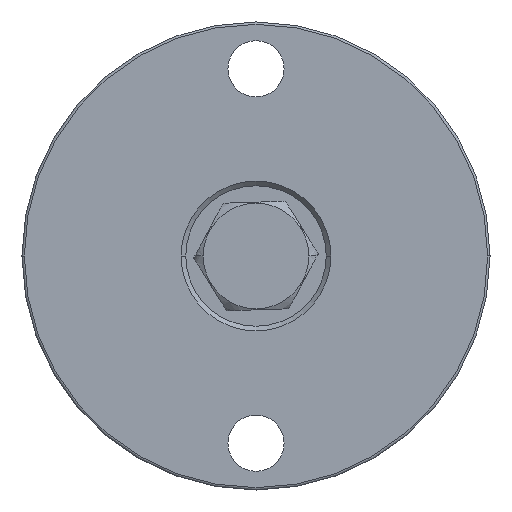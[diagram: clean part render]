
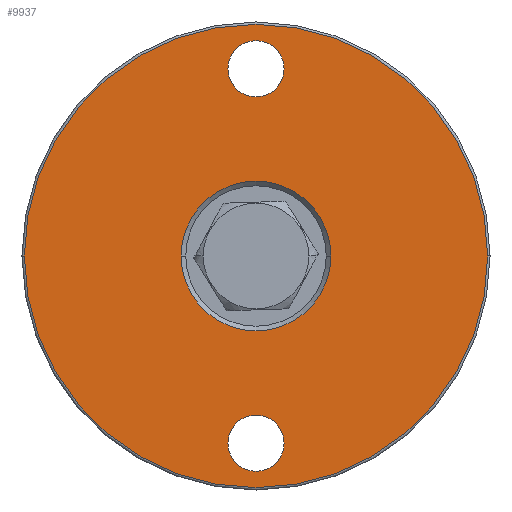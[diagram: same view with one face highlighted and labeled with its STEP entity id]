
A CAD part, front view. The second image highlights one B-rep face of the part: STEP entity #9937.
In plain terms, the highlighted planar face has unit normal (0, -1, 0).
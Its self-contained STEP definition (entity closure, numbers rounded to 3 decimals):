
#144 = VERTEX_POINT ( 'NONE', #4490 ) ;
#207 = DIRECTION ( 'NONE',  ( -1., 0., 0. ) ) ;
#458 = AXIS2_PLACEMENT_3D ( 'NONE', #9995, #8738, #7776 ) ;
#1023 = DIRECTION ( 'NONE',  ( 0., 1., 0. ) ) ;
#1078 = EDGE_CURVE ( 'NONE', #9899, #11290, #6294, .T. ) ;
#1084 = CARTESIAN_POINT ( 'NONE',  ( 0., -30., -40. ) ) ;
#1658 = DIRECTION ( 'NONE',  ( -1., 0., 0. ) ) ;
#2112 = ORIENTED_EDGE ( 'NONE', *, *, #5756, .T. ) ;
#2282 = ORIENTED_EDGE ( 'NONE', *, *, #11859, .T. ) ;
#2294 = CARTESIAN_POINT ( 'NONE',  ( 49.5, -30., 0. ) ) ;
#2314 = CARTESIAN_POINT ( 'NONE',  ( 0., -30., 0. ) ) ;
#2989 = VERTEX_POINT ( 'NONE', #11101 ) ;
#3020 = DIRECTION ( 'NONE',  ( 1., 0., 0. ) ) ;
#3509 = CARTESIAN_POINT ( 'NONE',  ( 16., -30., 0. ) ) ;
#3917 = CARTESIAN_POINT ( 'NONE',  ( 0., -30., 40. ) ) ;
#3977 = CIRCLE ( 'NONE', #5772, 6. ) ;
#4133 = DIRECTION ( 'NONE',  ( -1., 0., 0. ) ) ;
#4168 = DIRECTION ( 'NONE',  ( -1., 0., 0. ) ) ;
#4277 = CARTESIAN_POINT ( 'NONE',  ( 0., -30., -40. ) ) ;
#4320 = FACE_OUTER_BOUND ( 'NONE', #5253, .T. ) ;
#4472 = EDGE_LOOP ( 'NONE', ( #2112, #2282 ) ) ;
#4490 = CARTESIAN_POINT ( 'NONE',  ( 6., -30., -40. ) ) ;
#4811 = CIRCLE ( 'NONE', #5415, 6. ) ;
#5191 = DIRECTION ( 'NONE',  ( -1., 0., 0. ) ) ;
#5253 = EDGE_LOOP ( 'NONE', ( #5934, #10452 ) ) ;
#5415 = AXIS2_PLACEMENT_3D ( 'NONE', #3917, #5560, #5191 ) ;
#5560 = DIRECTION ( 'NONE',  ( 0., 1., 0. ) ) ;
#5585 = CARTESIAN_POINT ( 'NONE',  ( -16., -30., 0. ) ) ;
#5756 = EDGE_CURVE ( 'NONE', #2989, #144, #3977, .T. ) ;
#5772 = AXIS2_PLACEMENT_3D ( 'NONE', #4277, #11557, #3020 ) ;
#5890 = CARTESIAN_POINT ( 'NONE',  ( 0., -30., 0. ) ) ;
#5934 = ORIENTED_EDGE ( 'NONE', *, *, #10241, .T. ) ;
#5974 = ORIENTED_EDGE ( 'NONE', *, *, #8262, .T. ) ;
#6126 = EDGE_CURVE ( 'NONE', #11375, #10308, #7894, .T. ) ;
#6294 = CIRCLE ( 'NONE', #7398, 6. ) ;
#6570 = CIRCLE ( 'NONE', #11753, 16. ) ;
#6708 = AXIS2_PLACEMENT_3D ( 'NONE', #8036, #1023, #6759 ) ;
#6759 = DIRECTION ( 'NONE',  ( -1., 0., 0. ) ) ;
#6969 = CARTESIAN_POINT ( 'NONE',  ( 0., -30., 40. ) ) ;
#7156 = DIRECTION ( 'NONE',  ( 0., -1., 0. ) ) ;
#7252 = VERTEX_POINT ( 'NONE', #3509 ) ;
#7392 = CARTESIAN_POINT ( 'NONE',  ( 0., -30., 0. ) ) ;
#7398 = AXIS2_PLACEMENT_3D ( 'NONE', #6969, #11421, #4133 ) ;
#7520 = FACE_BOUND ( 'NONE', #9334, .T. ) ;
#7700 = CIRCLE ( 'NONE', #8558, 49.5 ) ;
#7776 = DIRECTION ( 'NONE',  ( -1., 0., 0. ) ) ;
#7837 = VERTEX_POINT ( 'NONE', #5585 ) ;
#7870 = CIRCLE ( 'NONE', #6708, 16. ) ;
#7894 = CIRCLE ( 'NONE', #458, 49.5 ) ;
#7960 = CARTESIAN_POINT ( 'NONE',  ( 6., -30., 40. ) ) ;
#8036 = CARTESIAN_POINT ( 'NONE',  ( 0., -30., 0. ) ) ;
#8262 = EDGE_CURVE ( 'NONE', #7252, #7837, #6570, .T. ) ;
#8387 = FACE_BOUND ( 'NONE', #4472, .T. ) ;
#8558 = AXIS2_PLACEMENT_3D ( 'NONE', #5890, #7156, #207 ) ;
#8738 = DIRECTION ( 'NONE',  ( 0., -1., 0. ) ) ;
#8801 = ORIENTED_EDGE ( 'NONE', *, *, #1078, .T. ) ;
#8947 = AXIS2_PLACEMENT_3D ( 'NONE', #1084, #8982, #10533 ) ;
#8982 = DIRECTION ( 'NONE',  ( 0., 1., 0. ) ) ;
#9104 = EDGE_CURVE ( 'NONE', #11290, #9899, #4811, .T. ) ;
#9170 = ORIENTED_EDGE ( 'NONE', *, *, #11390, .T. ) ;
#9334 = EDGE_LOOP ( 'NONE', ( #5974, #9170 ) ) ;
#9548 = EDGE_LOOP ( 'NONE', ( #8801, #11055 ) ) ;
#9740 = AXIS2_PLACEMENT_3D ( 'NONE', #7392, #10866, #1658 ) ;
#9899 = VERTEX_POINT ( 'NONE', #11091 ) ;
#9937 = ADVANCED_FACE ( 'NONE', ( #8387, #11001, #7520, #4320 ), #12135, .F. ) ;
#9995 = CARTESIAN_POINT ( 'NONE',  ( 0., -30., 0. ) ) ;
#10241 = EDGE_CURVE ( 'NONE', #10308, #11375, #7700, .T. ) ;
#10308 = VERTEX_POINT ( 'NONE', #10421 ) ;
#10421 = CARTESIAN_POINT ( 'NONE',  ( -49.5, -30., 0. ) ) ;
#10452 = ORIENTED_EDGE ( 'NONE', *, *, #6126, .T. ) ;
#10493 = DIRECTION ( 'NONE',  ( 0., 1., 0. ) ) ;
#10533 = DIRECTION ( 'NONE',  ( 1., 0., 0. ) ) ;
#10866 = DIRECTION ( 'NONE',  ( 0., 1., 0. ) ) ;
#11001 = FACE_BOUND ( 'NONE', #9548, .T. ) ;
#11055 = ORIENTED_EDGE ( 'NONE', *, *, #9104, .T. ) ;
#11091 = CARTESIAN_POINT ( 'NONE',  ( -6., -30., 40. ) ) ;
#11094 = CIRCLE ( 'NONE', #8947, 6. ) ;
#11101 = CARTESIAN_POINT ( 'NONE',  ( -6., -30., -40. ) ) ;
#11290 = VERTEX_POINT ( 'NONE', #7960 ) ;
#11375 = VERTEX_POINT ( 'NONE', #2294 ) ;
#11390 = EDGE_CURVE ( 'NONE', #7837, #7252, #7870, .T. ) ;
#11421 = DIRECTION ( 'NONE',  ( 0., 1., 0. ) ) ;
#11557 = DIRECTION ( 'NONE',  ( 0., 1., 0. ) ) ;
#11753 = AXIS2_PLACEMENT_3D ( 'NONE', #2314, #10493, #4168 ) ;
#11859 = EDGE_CURVE ( 'NONE', #144, #2989, #11094, .T. ) ;
#12135 = PLANE ( 'NONE',  #9740 ) ;
